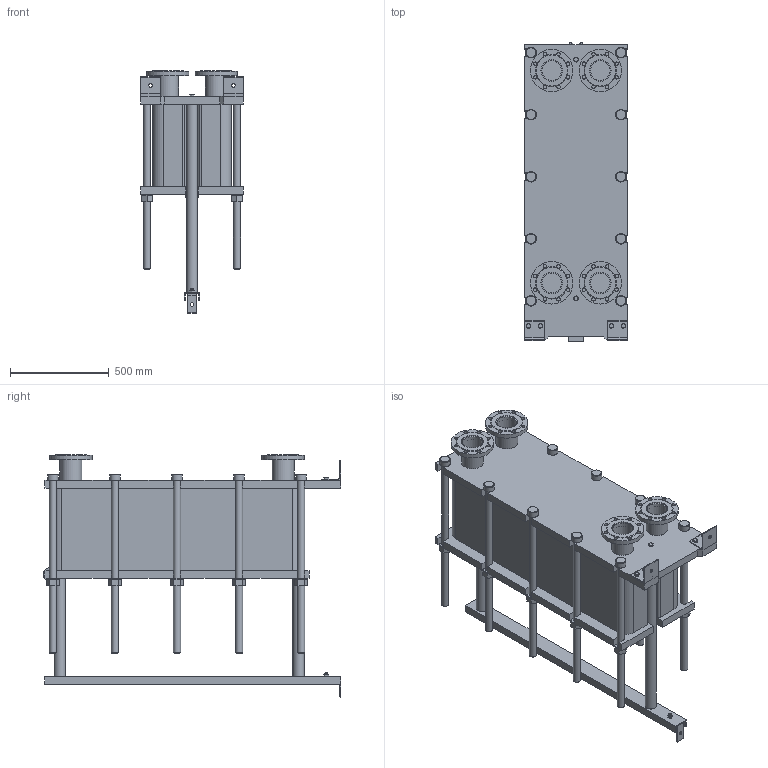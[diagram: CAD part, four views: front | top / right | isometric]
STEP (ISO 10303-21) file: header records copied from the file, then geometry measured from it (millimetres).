
FILE_DESCRIPTION(/* description */ (''),/* implementation_level */ '2;1');
FILE_NAME(/* name */ 'C:\Users\zhuro\Desktop\ENCO\TO\ЭН-04\ЭН-0,5-04-121-1.stp',/* time_stamp */ '2022-06-06T10:56:10+03:00',/* author */ ('zhuro'),/* organization */ (''),/* preprocessor_version */ 'ST-DEVELOPER v18.1',/* originating_system */ 'Autodesk Inventor 2022',/* authorisation */ '');
FILE_SCHEMA (('AUTOMOTIVE_DESIGN { 1 0 10303 214 3 1 1 }'));
Length unit declared in the file: millimetre
Products named in the file (1): ЭН-0,5-04-121-1
Bounding box: 520 x 1510 x 1230.5 mm (x, y, z)
Volume: 280959482.9 mm3; surface area: 8817053.9 mm2
Topology: 45 solids, 45 shells, 668 faces, 1611 edges, 1048 vertices
Faces by surface type: plane 457, cylinder 166, cone 39, torus 6
Full cylindrical faces by diameter (mm): 8 x4, 10 x2, 16 x8, 18 x35, 36 x25, 40 x2, 42 x1, 45 x4, 54 x10, 57 x2, 60 x10, 68 x2, 100 x4, 110 x8, 215 x4
Entity records: 23607 total; most frequent: CARTESIAN_POINT 7348, DIRECTION 3371, ORIENTED_EDGE 3142, EDGE_CURVE 1571, AXIS2_PLACEMENT_3D 1199, VERTEX_POINT 1044, LINE 973, VECTOR 973
